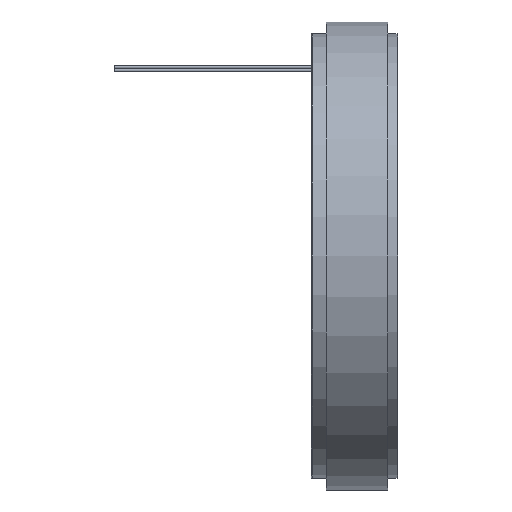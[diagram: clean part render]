
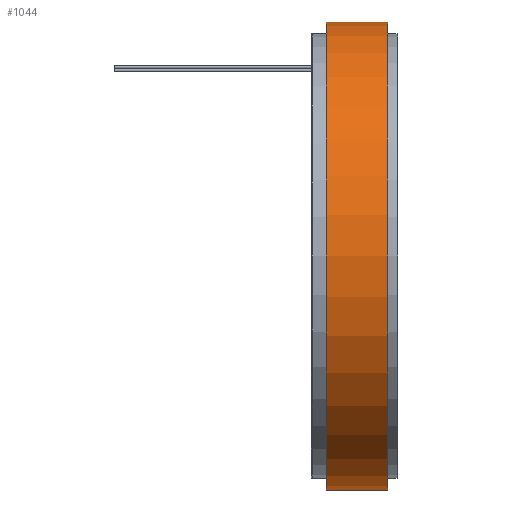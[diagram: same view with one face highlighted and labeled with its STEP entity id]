
A CAD part, left-side view. The second image highlights one B-rep face of the part: STEP entity #1044.
In plain terms, the highlighted cylindrical face has radius 190 mm (diameter 380 mm), a full revolution.
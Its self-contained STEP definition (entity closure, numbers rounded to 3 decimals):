
#1044=ADVANCED_FACE('',(#2190,#2192),#2194,.T.);
#2190=FACE_OUTER_BOUND('',#2191,.T.);
#2191=EDGE_LOOP('',(#2649));
#2192=FACE_OUTER_BOUND('',#2193,.T.);
#2193=EDGE_LOOP('',(#2650));
#2194=CYLINDRICAL_SURFACE('',#2195,190.);
#2195=AXIS2_PLACEMENT_3D('',#2196,#2197,#2198);
#2196=CARTESIAN_POINT('',(-8.,0.,0.));
#2197=DIRECTION('',(-1.,0.,0.));
#2198=DIRECTION('',(0.,0.,1.));
#2649=ORIENTED_EDGE('',*,*,#2781,.T.);
#2650=ORIENTED_EDGE('',*,*,#2795,.F.);
#2781=EDGE_CURVE('',#2992,#2992,#2993,.T.);
#2795=EDGE_CURVE('',#3020,#3020,#3021,.T.);
#2992=VERTEX_POINT('',#3494);
#2993=CIRCLE('',#3495,190.);
#3020=VERTEX_POINT('',#3564);
#3021=CIRCLE('',#3565,190.);
#3494=CARTESIAN_POINT('',(-8.,0.,190.));
#3495=AXIS2_PLACEMENT_3D('',#3496,#3497,#3498);
#3496=CARTESIAN_POINT('',(-8.,0.,0.));
#3497=DIRECTION('',(-1.,0.,0.));
#3498=DIRECTION('',(0.,0.,1.));
#3564=CARTESIAN_POINT('',(-58.,0.,190.));
#3565=AXIS2_PLACEMENT_3D('',#3566,#3567,#3568);
#3566=CARTESIAN_POINT('',(-58.,0.,0.));
#3567=DIRECTION('',(-1.,0.,0.));
#3568=DIRECTION('',(0.,0.,1.));
